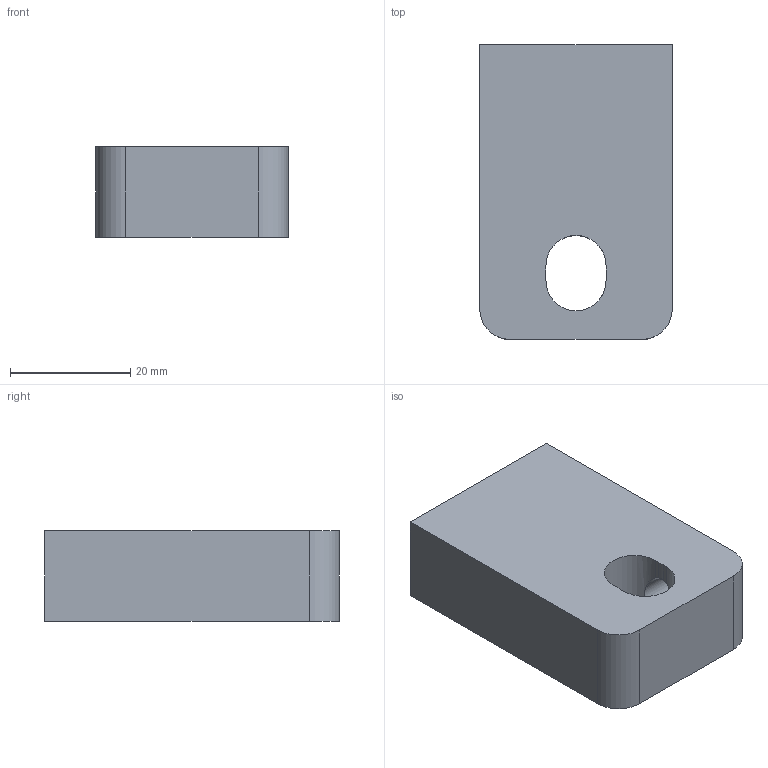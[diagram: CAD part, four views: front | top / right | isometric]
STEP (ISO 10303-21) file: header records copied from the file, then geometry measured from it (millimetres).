
FILE_DESCRIPTION(/* description */ (''),/* implementation_level */ '2;1');
FILE_NAME(/* name */ 'SYSTEM_SUPPORT_35.stp',/* time_stamp */ '2017-12-06T14:35:04+01:00',/* author */ (''),/* organization */ (''),/* preprocessor_version */ 'ST-DEVELOPER v16',/* originating_system */ 'SIEMENS PLM Software NX 10.0',/* authorisation */ '');
FILE_SCHEMA (('AP203_CONFIGURATION_CONTROLLED_3D_DESIGN_OF_MECHANICAL_PARTS_AND_ASSEMBLIES_MIM_LF { 1 0 10303 403 2 1 2}'));
Length unit declared in the file: millimetre
Products named in the file (1): turc1DB80072j4mg
Bounding box: 32 x 49 x 15 mm (x, y, z)
Volume: 20939.7 mm3; surface area: 6390.7 mm2
Topology: 1 solids, 1 shells, 28 faces, 84 edges, 57 vertices
Faces by surface type: plane 12, cylinder 10, cone 5, bspline 1
Full cylindrical faces by diameter (mm): 4.2 x2, 6.8 x1
Entity records: 1120 total; most frequent: CARTESIAN_POINT 346, DIRECTION 142, ORIENTED_EDGE 126, EDGE_CURVE 63, AXIS2_PLACEMENT_3D 54, VERTEX_POINT 47, EDGE_LOOP 40, LINE 34
